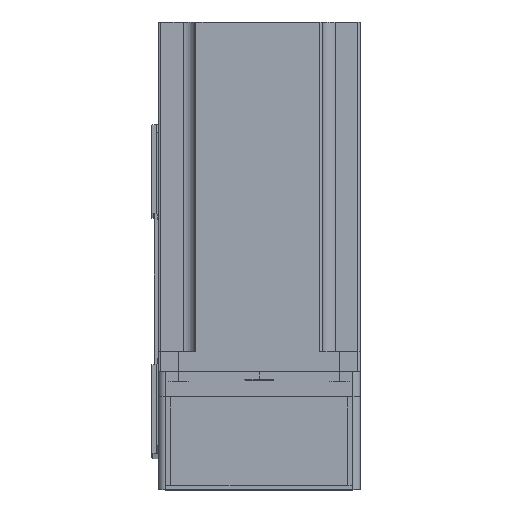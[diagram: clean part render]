
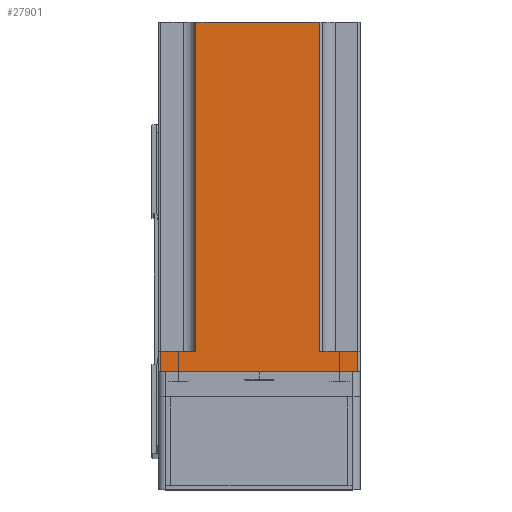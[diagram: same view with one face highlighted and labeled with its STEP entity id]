
A CAD part, top view. The second image highlights one B-rep face of the part: STEP entity #27901.
In plain terms, the highlighted planar face has unit normal (0, 0, 1) as drawn and (-1, 0, 0) by its records, which use the part's own axes.
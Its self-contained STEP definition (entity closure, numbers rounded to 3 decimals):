
#282 = VECTOR ( 'NONE', #20270, 1000. ) ;
#930 = EDGE_CURVE ( 'NONE', #38752, #26972, #8807, .T. ) ;
#2117 = ORIENTED_EDGE ( 'NONE', *, *, #930, .T. ) ;
#2534 = CARTESIAN_POINT ( 'NONE',  ( -40., 39., 138.3 ) ) ;
#3380 = FACE_OUTER_BOUND ( 'NONE', #12918, .T. ) ;
#3408 = CARTESIAN_POINT ( 'NONE',  ( -40., -40., 138.3 ) ) ;
#3519 = VECTOR ( 'NONE', #7736, 1000. ) ;
#3644 = VERTEX_POINT ( 'NONE', #13952 ) ;
#4050 = LINE ( 'NONE', #25886, #12117 ) ;
#6200 = CARTESIAN_POINT ( 'NONE',  ( -40., 39., 0. ) ) ;
#7702 = CARTESIAN_POINT ( 'NONE',  ( -40., -39., 0. ) ) ;
#7736 = DIRECTION ( 'NONE',  ( 0., 0., 1. ) ) ;
#8222 = VERTEX_POINT ( 'NONE', #36917 ) ;
#8467 = ORIENTED_EDGE ( 'NONE', *, *, #48381, .T. ) ;
#8522 = VERTEX_POINT ( 'NONE', #34599 ) ;
#8807 = LINE ( 'NONE', #36031, #29991 ) ;
#8933 = EDGE_CURVE ( 'NONE', #8522, #38752, #23688, .T. ) ;
#10365 = DIRECTION ( 'NONE',  ( 0., 0., -1. ) ) ;
#10608 = ORIENTED_EDGE ( 'NONE', *, *, #8933, .T. ) ;
#11039 = CARTESIAN_POINT ( 'NONE',  ( -40., -40., 8. ) ) ;
#11097 = EDGE_CURVE ( 'NONE', #33694, #48667, #32034, .T. ) ;
#12117 = VECTOR ( 'NONE', #37665, 1000. ) ;
#12200 = DIRECTION ( 'NONE',  ( 0., -1., 0. ) ) ;
#12918 = EDGE_LOOP ( 'NONE', ( #20421, #18315, #29484, #36269, #8467, #10608, #2117, #37325 ) ) ;
#13952 = CARTESIAN_POINT ( 'NONE',  ( -40., -39., 8. ) ) ;
#17166 = EDGE_CURVE ( 'NONE', #26972, #3644, #47117, .T. ) ;
#18088 = CARTESIAN_POINT ( 'NONE',  ( -40., -40., 138.3 ) ) ;
#18315 = ORIENTED_EDGE ( 'NONE', *, *, #38869, .T. ) ;
#18367 = VECTOR ( 'NONE', #35236, 1000. ) ;
#19101 = LINE ( 'NONE', #35584, #3519 ) ;
#20270 = DIRECTION ( 'NONE',  ( 0., 0., 1. ) ) ;
#20421 = ORIENTED_EDGE ( 'NONE', *, *, #24535, .F. ) ;
#20747 = VERTEX_POINT ( 'NONE', #41617 ) ;
#21321 = VECTOR ( 'NONE', #23056, 1000. ) ;
#21507 = CARTESIAN_POINT ( 'NONE',  ( -40., -39., 138.3 ) ) ;
#22071 = DIRECTION ( 'NONE',  ( 0., 0., -1. ) ) ;
#22587 = LINE ( 'NONE', #11039, #21321 ) ;
#23056 = DIRECTION ( 'NONE',  ( 0., -1., 0. ) ) ;
#23688 = LINE ( 'NONE', #2534, #44783 ) ;
#23967 = CARTESIAN_POINT ( 'NONE',  ( -40., 25., 138.3 ) ) ;
#24535 = EDGE_CURVE ( 'NONE', #8222, #3644, #22587, .T. ) ;
#25886 = CARTESIAN_POINT ( 'NONE',  ( -40., 40., 8. ) ) ;
#26972 = VERTEX_POINT ( 'NONE', #7702 ) ;
#27901 = ADVANCED_FACE ( 'NONE', ( #3380 ), #49673, .F. ) ;
#28895 = LINE ( 'NONE', #3408, #18367 ) ;
#29484 = ORIENTED_EDGE ( 'NONE', *, *, #48545, .F. ) ;
#29991 = VECTOR ( 'NONE', #12200, 1000. ) ;
#32034 = LINE ( 'NONE', #44206, #282 ) ;
#33694 = VERTEX_POINT ( 'NONE', #36346 ) ;
#34599 = CARTESIAN_POINT ( 'NONE',  ( -40., 39., 8. ) ) ;
#35236 = DIRECTION ( 'NONE',  ( 0., -1., 0. ) ) ;
#35584 = CARTESIAN_POINT ( 'NONE',  ( -40., -24., 138.3 ) ) ;
#36031 = CARTESIAN_POINT ( 'NONE',  ( -40., -40., 0. ) ) ;
#36269 = ORIENTED_EDGE ( 'NONE', *, *, #11097, .F. ) ;
#36346 = CARTESIAN_POINT ( 'NONE',  ( -40., 25., 8. ) ) ;
#36917 = CARTESIAN_POINT ( 'NONE',  ( -40., -24., 8. ) ) ;
#37325 = ORIENTED_EDGE ( 'NONE', *, *, #17166, .T. ) ;
#37665 = DIRECTION ( 'NONE',  ( 0., 1., 0. ) ) ;
#38752 = VERTEX_POINT ( 'NONE', #6200 ) ;
#38869 = EDGE_CURVE ( 'NONE', #8222, #20747, #19101, .T. ) ;
#41617 = CARTESIAN_POINT ( 'NONE',  ( -40., -24., 138.3 ) ) ;
#44206 = CARTESIAN_POINT ( 'NONE',  ( -40., 25., 8. ) ) ;
#44783 = VECTOR ( 'NONE', #10365, 1000. ) ;
#45838 = DIRECTION ( 'NONE',  ( 1., 0., 0. ) ) ;
#45883 = VECTOR ( 'NONE', #49286, 1000. ) ;
#46876 = AXIS2_PLACEMENT_3D ( 'NONE', #18088, #45838, #22071 ) ;
#47117 = LINE ( 'NONE', #21507, #45883 ) ;
#48381 = EDGE_CURVE ( 'NONE', #33694, #8522, #4050, .T. ) ;
#48545 = EDGE_CURVE ( 'NONE', #48667, #20747, #28895, .T. ) ;
#48667 = VERTEX_POINT ( 'NONE', #23967 ) ;
#49286 = DIRECTION ( 'NONE',  ( 0., 0., 1. ) ) ;
#49673 = PLANE ( 'NONE',  #46876 ) ;
